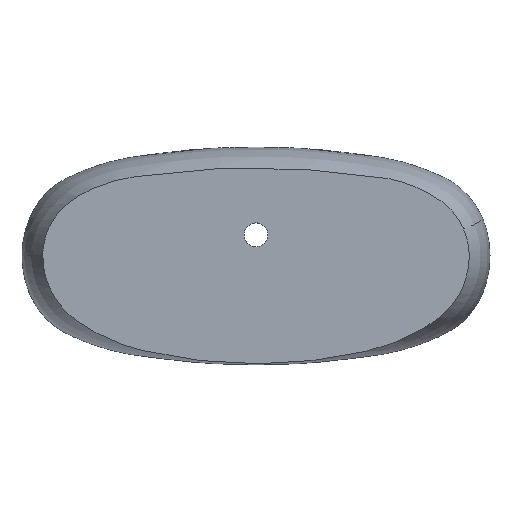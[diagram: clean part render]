
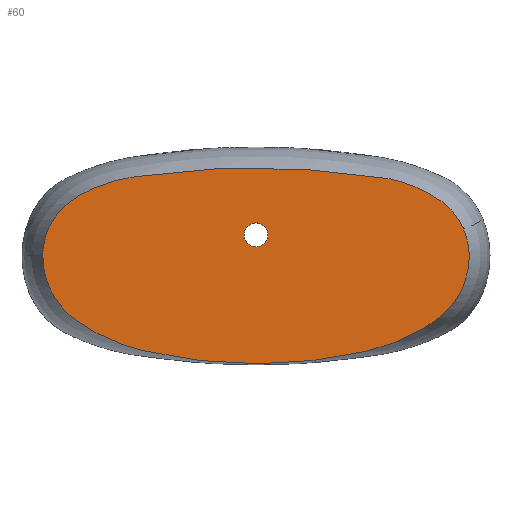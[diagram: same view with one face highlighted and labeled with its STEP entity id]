
A CAD part, front view. The second image highlights one B-rep face of the part: STEP entity #60.
In plain terms, the highlighted planar face has unit normal (0, -1, 0).
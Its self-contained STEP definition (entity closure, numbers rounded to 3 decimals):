
#27=FACE_BOUND('',#139,.T.);
#60=ADVANCED_FACE('',(#99,#27),#629,.T.);
#99=FACE_OUTER_BOUND('',#138,.T.);
#138=EDGE_LOOP('',(#313,#314));
#139=EDGE_LOOP('',(#315,#316));
#313=ORIENTED_EDGE('',*,*,#438,.T.);
#314=ORIENTED_EDGE('',*,*,#439,.T.);
#315=ORIENTED_EDGE('',*,*,#447,.F.);
#316=ORIENTED_EDGE('',*,*,#433,.F.);
#433=EDGE_CURVE('',#619,#623,#518,.T.);
#438=EDGE_CURVE('',#620,#621,#554,.T.);
#439=EDGE_CURVE('',#621,#620,#555,.T.);
#447=EDGE_CURVE('',#623,#619,#524,.T.);
#518=(
BOUNDED_CURVE()
B_SPLINE_CURVE(2,(#8627,#8628,#8629,#8630,#8631),.UNSPECIFIED.,.F.,.F.)
B_SPLINE_CURVE_WITH_KNOTS((3,2,3),(0.,36.128,72.257),
 .UNSPECIFIED.)
CURVE()
GEOMETRIC_REPRESENTATION_ITEM()
RATIONAL_B_SPLINE_CURVE((1.,0.707,1.,0.707,1.))
REPRESENTATION_ITEM('')
);
#524=(
BOUNDED_CURVE()
B_SPLINE_CURVE(2,(#8765,#8766,#8767,#8768,#8769),.UNSPECIFIED.,.F.,.F.)
B_SPLINE_CURVE_WITH_KNOTS((3,2,3),(72.257,108.385,144.513),
 .UNSPECIFIED.)
CURVE()
GEOMETRIC_REPRESENTATION_ITEM()
RATIONAL_B_SPLINE_CURVE((1.,0.707,1.,0.707,1.))
REPRESENTATION_ITEM('')
);
#554=B_SPLINE_CURVE_WITH_KNOTS('',3,(#8666,#8667,#8668,#8669,#8670,#8671,
#8672,#8673,#8674,#8675,#8676,#8677,#8678,#8679,#8680,#8681,#8682,#8683,
#8684,#8685,#8686,#8687,#8688,#8689,#8690,#8691,#8692,#8693,#8694,#8695,
#8696,#8697,#8698,#8699,#8700,#8701,#8702,#8703),.UNSPECIFIED.,.F.,.F.,
(4,2,2,2,2,2,2,2,2,2,2,3,3,2,2,2,2,4),(-53.121,-49.426,
-46.759,-44.517,-40.856,-38.513,
-36.328,-19.002,-9.503,-6.933,-3.668,
-1.183,0.,2.359,5.361,7.666,
8.914,9.025),.UNSPECIFIED.);
#555=B_SPLINE_CURVE_WITH_KNOTS('',3,(#8704,#8705,#8706,#8707,#8708,#8709,
#8710,#8711,#8712,#8713,#8714,#8715,#8716,#8717,#8718,#8719,#8720,#8721,
#8722,#8723,#8724,#8725,#8726,#8727,#8728,#8729,#8730,#8731,#8732,#8733,
#8734,#8735,#8736,#8737),.UNSPECIFIED.,.F.,.F.,(4,2,2,2,2,2,2,2,2,2,2,2,
2,2,2,2,4),(9.025,10.686,11.749,12.239,
12.621,13.16,14.108,14.821,27.465,
29.223,31.088,41.796,43.23,44.804,
47.124,50.246,50.756),.UNSPECIFIED.);
#619=VERTEX_POINT('',#6180);
#620=VERTEX_POINT('',#6181);
#621=VERTEX_POINT('',#6182);
#623=VERTEX_POINT('',#6184);
#629=PLANE('',#688);
#688=AXIS2_PLACEMENT_3D('',#5565,#696,$);
#696=DIRECTION('',(0.,-1.,0.));
#5565=CARTESIAN_POINT('',(-410.197,-140.,-254.873));
#6180=CARTESIAN_POINT('',(0.,-140.,-23.));
#6181=CARTESIAN_POINT('',(399.201,-139.999,11.312));
#6182=CARTESIAN_POINT('',(-409.999,-140.,-40.));
#6184=CARTESIAN_POINT('',(0.,-140.,23.));
#8627=CARTESIAN_POINT('',(0.,-140.,-23.));
#8628=CARTESIAN_POINT('',(23.,-140.,-23.));
#8629=CARTESIAN_POINT('',(23.,-140.,0.));
#8630=CARTESIAN_POINT('',(23.,-140.,23.));
#8631=CARTESIAN_POINT('',(0.,-140.,23.));
#8666=CARTESIAN_POINT('',(399.201,-139.999,11.312));
#8667=CARTESIAN_POINT('',(392.95,-139.999,25.688));
#8668=CARTESIAN_POINT('',(384.575,-139.999,37.85));
#8669=CARTESIAN_POINT('',(368.64,-139.999,55.033));
#8670=CARTESIAN_POINT('',(362.007,-140.,60.604));
#8671=CARTESIAN_POINT('',(350.334,-140.,68.959));
#8672=CARTESIAN_POINT('',(340.417,-140.,75.342));
#8673=CARTESIAN_POINT('',(312.696,-140.,90.326));
#8674=CARTESIAN_POINT('',(296.076,-140.,96.943));
#8675=CARTESIAN_POINT('',(270.194,-140.,104.841));
#8676=CARTESIAN_POINT('',(261.879,-140.,106.777));
#8677=CARTESIAN_POINT('',(247.929,-140.,109.579));
#8678=CARTESIAN_POINT('',(241.997,-140.,110.517));
#8679=CARTESIAN_POINT('',(122.384,-140.,127.783));
#8680=CARTESIAN_POINT('',(18.803,-140.,131.869));
#8681=CARTESIAN_POINT('',(-135.505,-140.,124.053));
#8682=CARTESIAN_POINT('',(-186.042,-140.,118.729));
#8683=CARTESIAN_POINT('',(-246.02,-140.,109.891));
#8684=CARTESIAN_POINT('',(-253.019,-140.,108.785));
#8685=CARTESIAN_POINT('',(-277.541,-140.,102.967));
#8686=CARTESIAN_POINT('',(-289.055,-140.,99.152));
#8687=CARTESIAN_POINT('',(-306.861,-140.,92.244));
#8688=CARTESIAN_POINT('',(-314.382,-140.,88.924));
#8689=CARTESIAN_POINT('',(-321.76,-140.,85.252));
#8690=CARTESIAN_POINT('',(-325.271,-140.,83.505));
#8691=CARTESIAN_POINT('',(-328.749,-140.,81.678));
#8692=CARTESIAN_POINT('',(-332.199,-140.,79.77));
#8693=CARTESIAN_POINT('',(-339.08,-140.,75.962));
#8694=CARTESIAN_POINT('',(-345.293,-140.,72.141));
#8695=CARTESIAN_POINT('',(-358.162,-140.,63.582));
#8696=CARTESIAN_POINT('',(-373.498,-140.,52.873));
#8697=CARTESIAN_POINT('',(-397.488,-140.,18.031));
#8698=CARTESIAN_POINT('',(-403.907,-140.,1.964));
#8699=CARTESIAN_POINT('',(-409.025,-140.,-22.431));
#8700=CARTESIAN_POINT('',(-409.823,-140.,-30.461));
#8701=CARTESIAN_POINT('',(-409.987,-140.,-38.59));
#8702=CARTESIAN_POINT('',(-409.996,-140.,-39.281));
#8703=CARTESIAN_POINT('',(-409.999,-140.,-40.));
#8704=CARTESIAN_POINT('',(-409.999,-140.,-40.));
#8705=CARTESIAN_POINT('',(-410.055,-140.,-50.784));
#8706=CARTESIAN_POINT('',(-408.898,-140.,-67.812));
#8707=CARTESIAN_POINT('',(-398.545,-140.,-99.515));
#8708=CARTESIAN_POINT('',(-391.526,-140.,-115.534));
#8709=CARTESIAN_POINT('',(-373.076,-140.,-139.634));
#8710=CARTESIAN_POINT('',(-367.135,-140.,-146.019));
#8711=CARTESIAN_POINT('',(-356.608,-140.,-155.88));
#8712=CARTESIAN_POINT('',(-352.207,-140.,-159.502));
#8713=CARTESIAN_POINT('',(-342.051,-140.,-167.141));
#8714=CARTESIAN_POINT('',(-330.13,-140.,-175.338));
#8715=CARTESIAN_POINT('',(-294.349,-140.,-196.269));
#8716=CARTESIAN_POINT('',(-271.831,-140.,-206.112));
#8717=CARTESIAN_POINT('',(-233.881,-140.,-218.876));
#8718=CARTESIAN_POINT('',(-221.858,-140.,-221.687));
#8719=CARTESIAN_POINT('',(-95.398,-139.999,-251.086));
#8720=CARTESIAN_POINT('',(25.953,-139.999,-254.864));
#8721=CARTESIAN_POINT('',(158.694,-139.999,-234.725));
#8722=CARTESIAN_POINT('',(173.202,-139.999,-232.105));
#8723=CARTESIAN_POINT('',(200.393,-139.999,-226.664));
#8724=CARTESIAN_POINT('',(212.962,-139.999,-223.826));
#8725=CARTESIAN_POINT('',(266.995,-139.999,-210.6));
#8726=CARTESIAN_POINT('',(308.588,-139.999,-190.846));
#8727=CARTESIAN_POINT('',(349.272,-139.999,-161.821));
#8728=CARTESIAN_POINT('',(361.053,-139.999,-153.173));
#8729=CARTESIAN_POINT('',(386.378,-139.999,-123.737));
#8730=CARTESIAN_POINT('',(395.07,-139.999,-107.909));
#8731=CARTESIAN_POINT('',(409.305,-139.999,-69.106));
#8732=CARTESIAN_POINT('',(410.247,-139.999,-48.844));
#8733=CARTESIAN_POINT('',(409.57,-139.999,-21.755));
#8734=CARTESIAN_POINT('',(406.432,-139.999,-7.433));
#8735=CARTESIAN_POINT('',(400.887,-139.999,7.3));
#8736=CARTESIAN_POINT('',(400.064,-139.999,9.327));
#8737=CARTESIAN_POINT('',(399.201,-139.999,11.312));
#8765=CARTESIAN_POINT('',(0.,-140.,23.));
#8766=CARTESIAN_POINT('',(-23.,-140.,23.));
#8767=CARTESIAN_POINT('',(-23.,-140.,0.));
#8768=CARTESIAN_POINT('',(-23.,-140.,-23.));
#8769=CARTESIAN_POINT('',(0.,-140.,-23.));
